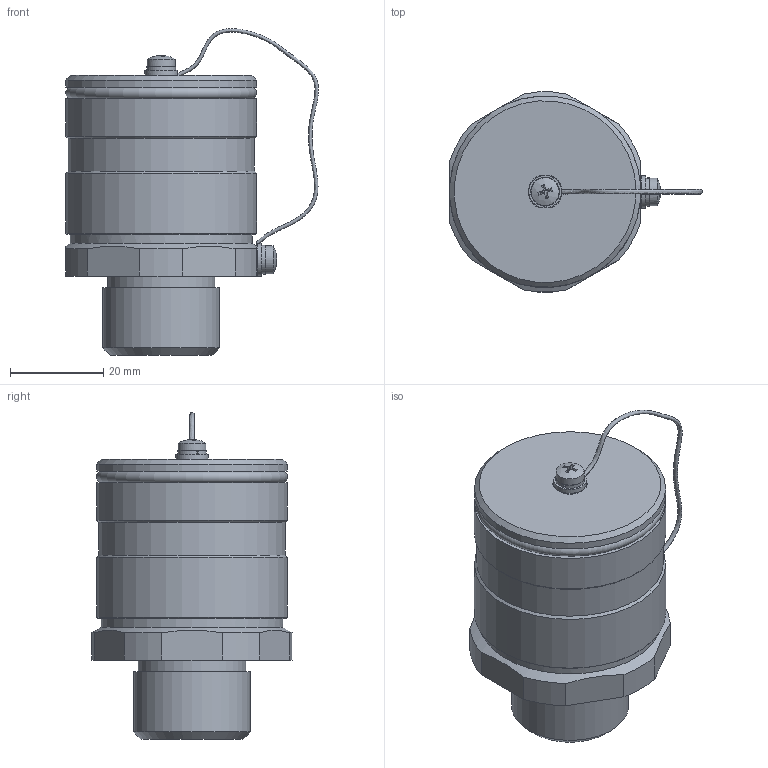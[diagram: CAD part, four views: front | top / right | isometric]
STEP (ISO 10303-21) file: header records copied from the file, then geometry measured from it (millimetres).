
FILE_DESCRIPTION (( 'STEP AP203' ), '1' );
FILE_NAME ('ﾐﾃﾌﾊﾂ-24DC-7-2M.STEP', '2021-07-12T11:16:52', ( '' ), ( '' ), 'SwSTEP 2.0', 'SolidWorks 2018', '' );
FILE_SCHEMA (( 'CONFIG_CONTROL_DESIGN' ));
Length unit declared in the file: millimetre
Products named in the file (1): ﾐﾃﾌﾊﾂ-24DC-7-2M
Bounding box: 54.24 x 42.89 x 70.04 mm (x, y, z)
Volume: 64170 mm3; surface area: 13192 mm2
Topology: 2 solids, 2 shells, 148 faces, 365 edges, 231 vertices
Faces by surface type: plane 92, cylinder 40, cone 10, torus 3, sphere 2, bspline 1
Full cylindrical faces by diameter (mm): 2.56 x2, 3 x2, 3.2 x2, 3.5 x2, 6 x2, 7 x2, 23 x1, 25 x1, 36 x2, 39 x1, 39.8 x1, 40 x1, 41 x3
Entity records: 5086 total; most frequent: CARTESIAN_POINT 1650, DIRECTION 735, ORIENTED_EDGE 632, EDGE_CURVE 316, AXIS2_PLACEMENT_3D 287, VERTEX_POINT 218, EDGE_LOOP 200, FACE_OUTER_BOUND 174
